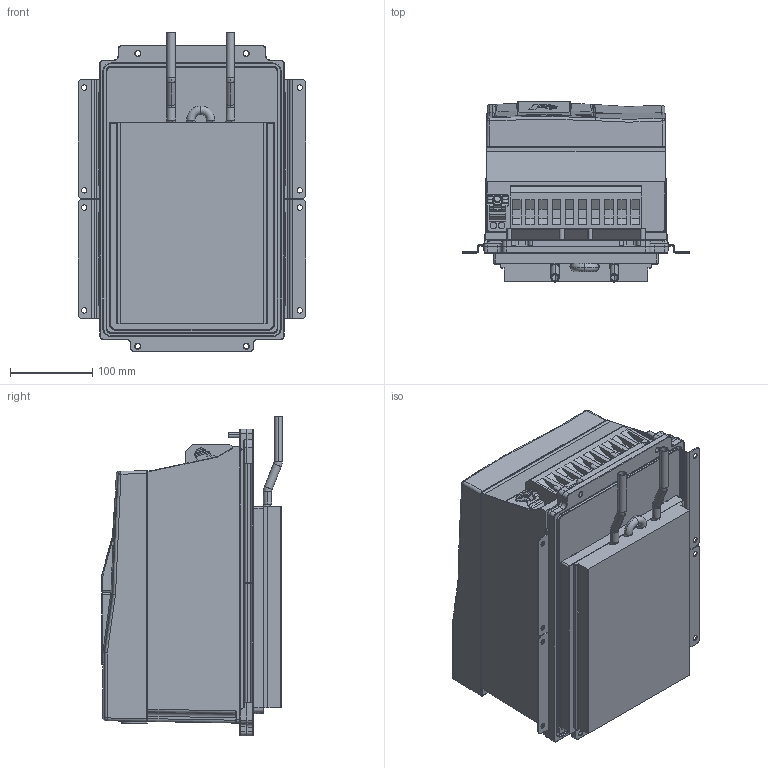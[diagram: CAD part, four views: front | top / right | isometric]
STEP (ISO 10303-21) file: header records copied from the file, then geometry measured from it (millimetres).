
FILE_DESCRIPTION (( 'STEP AP214' ), '1' );
FILE_NAME ('F6-4TW5-A030.STEP', '2020-12-10T07:33:19', ( '' ), ( '' ), 'SwSTEP 2.0', 'SolidWorks 2019', '' );
FILE_SCHEMA (( 'AUTOMOTIVE_DESIGN' ));
Length unit declared in the file: millimetre
Products named in the file (11): 10059764_000_Blindabdeckung (Kundenmodell); 10061790_000; 10032600_000_Kundenmodell; 10045826_000_Basis Leistungsteil TW5 (Kundenmodell); 10059765_000; 10061644_000_Deckel (Kundenmodell); 10035736_000_Kundenmodell; 10058448_000; 10061645_000; F6-4TW5-A030; 10059763_000
Assembly tree (10 placements, depth 4):
  F6-4TW5-A030
    10045826_000_Basis Leistungsteil TW5 (Kundenmodell)
      10061790_000
    10032600_000_Kundenmodell
      10061644_000_Deckel (Kundenmodell)
        10061645_000
      10058448_000
    10035736_000_Kundenmodell
      10059764_000_Blindabdeckung (Kundenmodell)
        10059765_000
      10059763_000
Bounding box: 277 x 219.7 x 389 mm (x, y, z)
Volume: 14022572.9 mm3; surface area: 858988.3 mm2
Topology: 11 solids, 28 shells, 2810 faces, 7356 edges, 4635 vertices
Faces by surface type: plane 1185, cylinder 713, bspline 554, torus 203, cone 115, sphere 40
Entity records: 108986 total; most frequent: CARTESIAN_POINT 42890, ORIENTED_EDGE 14586, DIRECTION 12147, EDGE_CURVE 7293, VERTEX_POINT 4633, AXIS2_PLACEMENT_3D 4077, VECTOR 3993, LINE 3993
